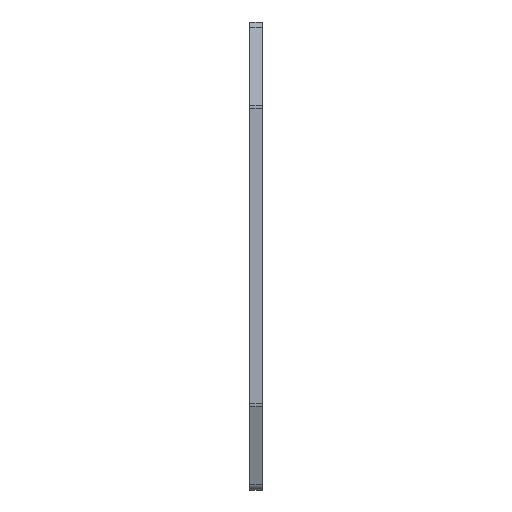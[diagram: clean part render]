
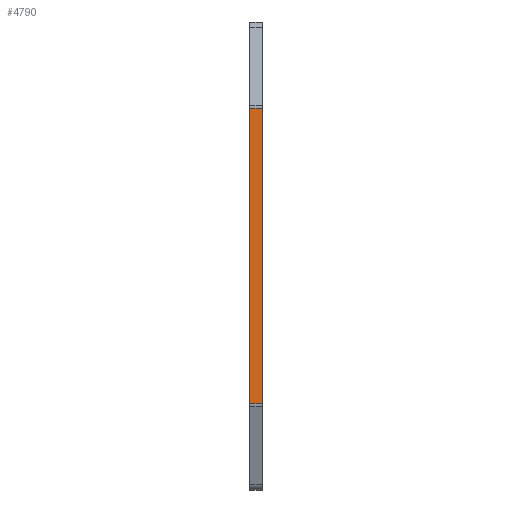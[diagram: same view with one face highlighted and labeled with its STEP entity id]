
A CAD part, left-side view. The second image highlights one B-rep face of the part: STEP entity #4790.
In plain terms, the highlighted planar face has unit normal (-1, 0, 0).
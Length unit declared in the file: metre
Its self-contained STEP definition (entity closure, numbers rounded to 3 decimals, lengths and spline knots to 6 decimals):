
#933=ORIENTED_EDGE('',*,*,#2074,.T.);
#934=ORIENTED_EDGE('',*,*,#2073,.F.);
#935=ORIENTED_EDGE('',*,*,#2075,.F.);
#936=ORIENTED_EDGE('',*,*,#2076,.T.);
#2073=EDGE_CURVE('',#2600,#2599,#3079,.T.);
#2074=EDGE_CURVE('',#2601,#2599,#3080,.T.);
#2075=EDGE_CURVE('',#2602,#2600,#3081,.T.);
#2076=EDGE_CURVE('',#2602,#2601,#3082,.T.);
#2599=VERTEX_POINT('',#7631);
#2600=VERTEX_POINT('',#7633);
#2601=VERTEX_POINT('',#7637);
#2602=VERTEX_POINT('',#7639);
#3079=LINE('',#7634,#3351);
#3080=LINE('',#7636,#3352);
#3081=LINE('',#7638,#3353);
#3082=LINE('',#7640,#3354);
#3351=VECTOR('',#6149,1.);
#3352=VECTOR('',#6152,1.);
#3353=VECTOR('',#6153,1.);
#3354=VECTOR('',#6154,1.);
#3497=EDGE_LOOP('',(#933,#934,#935,#936));
#4107=FACE_BOUND('',#3497,.T.);
#4671=PLANE('',#5139);
#4790=ADVANCED_FACE('',(#4107),#4671,.F.);
#5139=AXIS2_PLACEMENT_3D('',#7635,#6150,#6151);
#6149=DIRECTION('',(0.,-1.,0.));
#6150=DIRECTION('',(1.,0.,0.));
#6151=DIRECTION('',(0.,1.,0.));
#6152=DIRECTION('',(0.,0.,1.));
#6153=DIRECTION('',(0.,0.,1.));
#6154=DIRECTION('',(0.,-1.,0.));
#7631=CARTESIAN_POINT('',(-0.12,0.,0.036359));
#7633=CARTESIAN_POINT('',(-0.12,0.003,0.036359));
#7634=CARTESIAN_POINT('',(-0.12,0.003,0.036359));
#7635=CARTESIAN_POINT('',(-0.12,0.003,0.));
#7636=CARTESIAN_POINT('',(-0.12,0.,0.));
#7637=CARTESIAN_POINT('',(-0.12,0.,-0.036359));
#7638=CARTESIAN_POINT('',(-0.12,0.003,0.));
#7639=CARTESIAN_POINT('',(-0.12,0.003,-0.036359));
#7640=CARTESIAN_POINT('',(-0.12,0.003,-0.036359));
